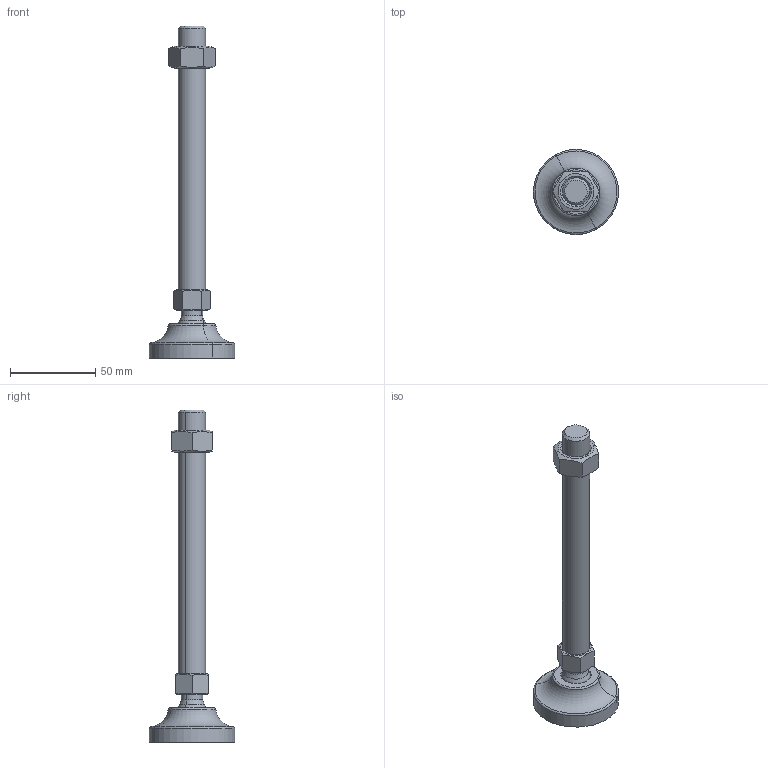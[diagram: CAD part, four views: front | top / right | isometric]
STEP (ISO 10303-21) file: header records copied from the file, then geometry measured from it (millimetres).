
FILE_DESCRIPTION(('CATIA V5 STEP Exchange'),'2;1');
FILE_NAME('C:\Users\ALI OZGUN\Desktop\alhan\saplama2\560501621.stp','2017-09-21T10:33:29+00:00',('none'),('none'),'CATIA Version 5 Release 21 GA (IN-10)','CATIA V5 STEP AP203','none');
FILE_SCHEMA(('CONFIG_CONTROL_DESIGN'));
Length unit declared in the file: millimetre
Products named in the file (1): 560501621
Bounding box: 49.99 x 49.99 x 195 mm (x, y, z)
Volume: 59862.2 mm3; surface area: 18996.4 mm2
Topology: 3 solids, 3 shells, 60 faces, 136 edges, 83 vertices
Faces by surface type: plane 20, cone 16, cylinder 14, torus 6, revolution 2, sphere 2
Entity records: 1852 total; most frequent: CARTESIAN_POINT 610, ORIENTED_EDGE 268, DIRECTION 186, EDGE_CURVE 134, AXIS2_PLACEMENT_3D 100, VERTEX_POINT 83, EDGE_LOOP 67, ADVANCED_FACE 60
